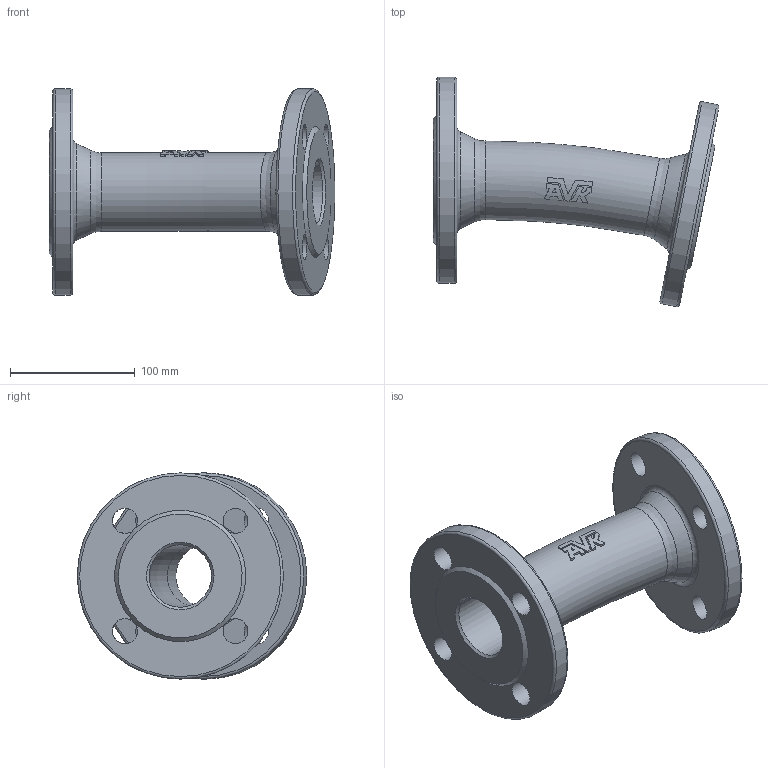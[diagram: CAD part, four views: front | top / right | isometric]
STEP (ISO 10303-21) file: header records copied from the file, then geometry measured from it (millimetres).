
FILE_DESCRIPTION (( 'STEP AP203' ), '1' );
FILE_NAME ('O_712_0110_DN050_REV02.step', '2024-08-15T07:32:15', ( '' ), ( '' ), 'SwSTEP 2.0', 'SolidWorks 2022', '' );
FILE_SCHEMA (( 'CONFIG_CONTROL_DESIGN' ));
Length unit declared in the file: millimetre
Products named in the file (1): O_712_0110_DN050_REV02
Bounding box: 228.71 x 183.74 x 165 mm (x, y, z)
Volume: 858666.8 mm3; surface area: 161324.1 mm2
Topology: 1 solids, 1 shells, 112 faces, 315 edges, 205 vertices
Faces by surface type: cylinder 51, plane 41, torus 12, cone 6, bspline 2
Full cylindrical faces by diameter (mm): 20 x8, 50 x2, 165 x2
Entity records: 5029 total; most frequent: CARTESIAN_POINT 2529, ORIENTED_EDGE 540, DIRECTION 384, EDGE_CURVE 270, VERTEX_POINT 188, EDGE_LOOP 158, AXIS2_PLACEMENT_3D 155, B_SPLINE_CURVE_WITH_KNOTS 152
